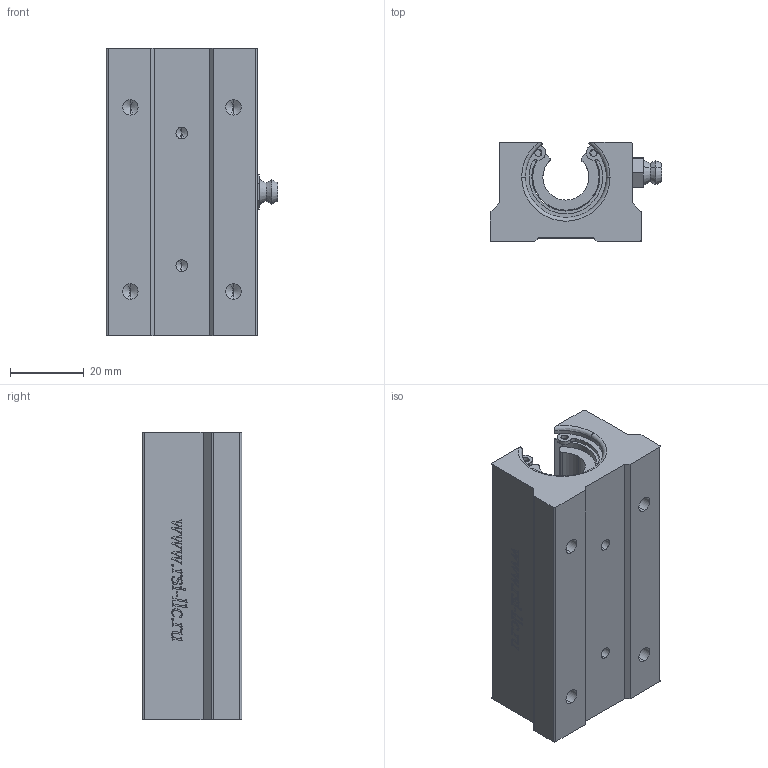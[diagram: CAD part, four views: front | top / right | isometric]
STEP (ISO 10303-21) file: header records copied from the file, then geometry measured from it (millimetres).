
FILE_DESCRIPTION (( 'STEP AP214' ), '1' );
FILE_NAME ('SBR12LUU.STEP', '2020-08-27T06:38:57', ( '' ), ( '' ), 'SwSTEP 2.0', 'SolidWorks 2018', '' );
FILE_SCHEMA (( 'AUTOMOTIVE_DESIGN' ));
Length unit declared in the file: millimetre
Products named in the file (1): SBR12LUU
Bounding box: 46.5 x 27 x 78 mm (x, y, z)
Volume: 59570.4 mm3; surface area: 29904.4 mm2
Topology: 10 solids, 10 shells, 494 faces, 1350 edges, 886 vertices
Faces by surface type: plane 215, cylinder 143, bspline 108, cone 22, torus 6
Entity records: 25451 total; most frequent: CARTESIAN_POINT 7890, ORIENTED_EDGE 2676, DIRECTION 2186, EDGE_CURVE 1338, VERTEX_POINT 886, VECTOR 798, LINE 798, AXIS2_PLACEMENT_3D 694
